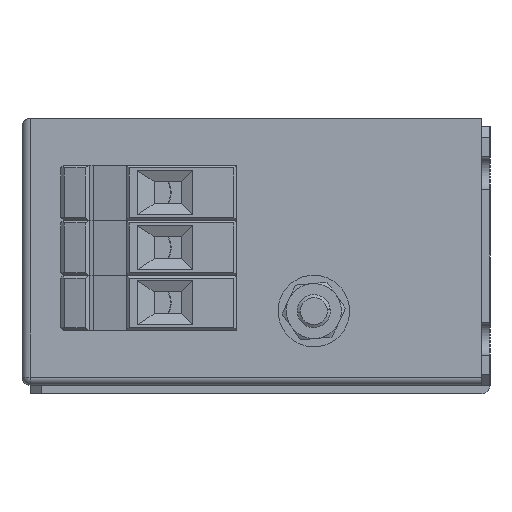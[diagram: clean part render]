
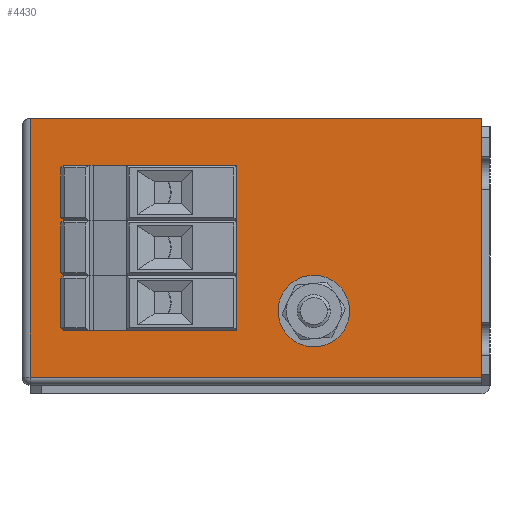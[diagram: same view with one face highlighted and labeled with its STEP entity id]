
A CAD part, left-side view. The second image highlights one B-rep face of the part: STEP entity #4430.
In plain terms, the highlighted planar face has unit normal (-1, 0, 0).
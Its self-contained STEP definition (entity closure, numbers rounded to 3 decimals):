
#515 = DIRECTION ( 'NONE',  ( 0., -1., 0. ) ) ;
#516 = VECTOR ( 'NONE', #515, 1000. ) ;
#517 = CARTESIAN_POINT ( 'NONE',  ( 15., 85., -45.5 ) ) ;
#518 = LINE ( 'NONE', #517, #516 ) ;
#525 = CARTESIAN_POINT ( 'NONE',  ( 15., 1.5, -45.5 ) ) ;
#647 = PLANE ( 'NONE',  #653 ) ;
#648 = FACE_BOUND ( 'NONE', #4431, .T. ) ;
#653 = AXIS2_PLACEMENT_3D ( 'NONE', #660, #659, #658 ) ;
#654 = FACE_OUTER_BOUND ( 'NONE', #7533, .T. ) ;
#655 = FACE_BOUND ( 'NONE', #7458, .T. ) ;
#656 = FACE_BOUND ( 'NONE', #4079, .T. ) ;
#657 = FACE_BOUND ( 'NONE', #4075, .T. ) ;
#658 = DIRECTION ( 'NONE',  ( 0., 0., -1. ) ) ;
#659 = DIRECTION ( 'NONE',  ( 1., 0., 0. ) ) ;
#660 = CARTESIAN_POINT ( 'NONE',  ( 15., 85., 1.5 ) ) ;
#661 = AXIS2_PLACEMENT_3D ( 'NONE', #665, #664, #663 ) ;
#662 = CIRCLE ( 'NONE', #661, 3. ) ;
#663 = DIRECTION ( 'NONE',  ( 0., 0., -1. ) ) ;
#664 = DIRECTION ( 'NONE',  ( 1., 0., 0. ) ) ;
#665 = CARTESIAN_POINT ( 'NONE',  ( 15., 32., -33.5 ) ) ;
#847 = DIRECTION ( 'NONE',  ( 1., 0., 0. ) ) ;
#848 = CARTESIAN_POINT ( 'NONE',  ( 15., 32., -33.5 ) ) ;
#849 = AXIS2_PLACEMENT_3D ( 'NONE', #848, #847, #853 ) ;
#851 = CARTESIAN_POINT ( 'NONE',  ( 15., 32., -36.5 ) ) ;
#852 = CARTESIAN_POINT ( 'NONE',  ( 15., 32., -30.5 ) ) ;
#853 = DIRECTION ( 'NONE',  ( 0., 0., -1. ) ) ;
#860 = CIRCLE ( 'NONE', #849, 3. ) ;
#2168 = CARTESIAN_POINT ( 'NONE',  ( 15., 62., -16.1 ) ) ;
#2170 = CIRCLE ( 'NONE', #2177, 4.1 ) ;
#2174 = DIRECTION ( 'NONE',  ( 0., 0., -1. ) ) ;
#2175 = DIRECTION ( 'NONE',  ( 1., 0., 0. ) ) ;
#2176 = CARTESIAN_POINT ( 'NONE',  ( 15., 62., -12. ) ) ;
#2177 = AXIS2_PLACEMENT_3D ( 'NONE', #2176, #2175, #2174 ) ;
#2581 = CARTESIAN_POINT ( 'NONE',  ( 15., 83.5, 1.5 ) ) ;
#2582 = DIRECTION ( 'NONE',  ( 0., -1., 0. ) ) ;
#2583 = VECTOR ( 'NONE', #2582, 1000. ) ;
#2584 = CARTESIAN_POINT ( 'NONE',  ( 15., 85., 1.5 ) ) ;
#2585 = LINE ( 'NONE', #2584, #2583 ) ;
#2663 = DIRECTION ( 'NONE',  ( 0., 0., -1. ) ) ;
#2664 = VECTOR ( 'NONE', #2663, 1000. ) ;
#2665 = CARTESIAN_POINT ( 'NONE',  ( 15., 83.5, 1.5 ) ) ;
#2666 = LINE ( 'NONE', #2665, #2664 ) ;
#2677 = DIRECTION ( 'NONE',  ( 0., 0., 1. ) ) ;
#2678 = VECTOR ( 'NONE', #2677, 1000. ) ;
#2679 = CARTESIAN_POINT ( 'NONE',  ( 15., 1.5, 1.5 ) ) ;
#2680 = LINE ( 'NONE', #2679, #2678 ) ;
#2727 = DIRECTION ( 'NONE',  ( 0., 0., -1. ) ) ;
#2728 = DIRECTION ( 'NONE',  ( 1., 0., 0. ) ) ;
#2729 = CARTESIAN_POINT ( 'NONE',  ( 15., 62., -32. ) ) ;
#2730 = AXIS2_PLACEMENT_3D ( 'NONE', #2729, #2728, #2727 ) ;
#2731 = CIRCLE ( 'NONE', #2730, 4.1 ) ;
#2736 = DIRECTION ( 'NONE',  ( 0., 0., -1. ) ) ;
#2737 = DIRECTION ( 'NONE',  ( 1., 0., 0. ) ) ;
#2738 = CARTESIAN_POINT ( 'NONE',  ( 15., 62., -22. ) ) ;
#2739 = AXIS2_PLACEMENT_3D ( 'NONE', #2738, #2737, #2736 ) ;
#2744 = CIRCLE ( 'NONE', #2739, 4.1 ) ;
#3109 = CARTESIAN_POINT ( 'NONE',  ( 15., 62., -22. ) ) ;
#3110 = AXIS2_PLACEMENT_3D ( 'NONE', #3109, #3114, #3113 ) ;
#3111 = CIRCLE ( 'NONE', #3110, 4.1 ) ;
#3112 = CARTESIAN_POINT ( 'NONE',  ( 15., 62., -26.1 ) ) ;
#3113 = DIRECTION ( 'NONE',  ( 0., 0., -1. ) ) ;
#3114 = DIRECTION ( 'NONE',  ( 1., 0., 0. ) ) ;
#3115 = CARTESIAN_POINT ( 'NONE',  ( 15., 62., -17.9 ) ) ;
#3152 = CARTESIAN_POINT ( 'NONE',  ( 15., 1.5, 1.5 ) ) ;
#3153 = DIRECTION ( 'NONE',  ( 0., 0., 1. ) ) ;
#3154 = VECTOR ( 'NONE', #3153, 1000. ) ;
#3155 = CARTESIAN_POINT ( 'NONE',  ( 15., 1.5, 1.5 ) ) ;
#3190 = LINE ( 'NONE', #3155, #3154 ) ;
#3192 = CARTESIAN_POINT ( 'NONE',  ( 15., 1.5, 0. ) ) ;
#3625 = ORIENTED_EDGE ( 'NONE', *, *, #7542, .T. ) ;
#4071 = VERTEX_POINT ( 'NONE', #2168 ) ;
#4075 = EDGE_LOOP ( 'NONE', ( #4076, #4078 ) ) ;
#4076 = ORIENTED_EDGE ( 'NONE', *, *, #4077, .T. ) ;
#4077 = EDGE_CURVE ( 'NONE', #4071, #4579, #2170, .T. ) ;
#4078 = ORIENTED_EDGE ( 'NONE', *, *, #4578, .T. ) ;
#4079 = EDGE_LOOP ( 'NONE', ( #3625, #7528 ) ) ;
#4083 = EDGE_CURVE ( 'NONE', #4084, #4085, #3111, .T. ) ;
#4084 = VERTEX_POINT ( 'NONE', #3115 ) ;
#4085 = VERTEX_POINT ( 'NONE', #3112 ) ;
#4100 = EDGE_CURVE ( 'NONE', #4101, #4102, #3190, .T. ) ;
#4101 = VERTEX_POINT ( 'NONE', #3192 ) ;
#4102 = VERTEX_POINT ( 'NONE', #3152 ) ;
#4219 = EDGE_CURVE ( 'NONE', #4220, #4221, #860, .T. ) ;
#4220 = VERTEX_POINT ( 'NONE', #852 ) ;
#4221 = VERTEX_POINT ( 'NONE', #851 ) ;
#4332 = VERTEX_POINT ( 'NONE', #525 ) ;
#4334 = EDGE_CURVE ( 'NONE', #4600, #4332, #518, .T. ) ;
#4430 = ADVANCED_FACE ( 'NONE', ( #648, #657, #656, #655, #654 ), #647, .F. ) ;
#4431 = EDGE_LOOP ( 'NONE', ( #4432, #4434 ) ) ;
#4432 = ORIENTED_EDGE ( 'NONE', *, *, #4433, .T. ) ;
#4433 = EDGE_CURVE ( 'NONE', #4221, #4220, #662, .T. ) ;
#4434 = ORIENTED_EDGE ( 'NONE', *, *, #4219, .T. ) ;
#4569 = EDGE_CURVE ( 'NONE', #4570, #4571, #6587, .T. ) ;
#4570 = VERTEX_POINT ( 'NONE', #6591 ) ;
#4571 = VERTEX_POINT ( 'NONE', #6589 ) ;
#4578 = EDGE_CURVE ( 'NONE', #4579, #4071, #6673, .T. ) ;
#4579 = VERTEX_POINT ( 'NONE', #6765 ) ;
#4600 = VERTEX_POINT ( 'NONE', #6881 ) ;
#6585 = AXIS2_PLACEMENT_3D ( 'NONE', #6617, #6615, #6613 ) ;
#6587 = CIRCLE ( 'NONE', #6585, 4.1 ) ;
#6589 = CARTESIAN_POINT ( 'NONE',  ( 15., 62., -36.1 ) ) ;
#6591 = CARTESIAN_POINT ( 'NONE',  ( 15., 62., -27.9 ) ) ;
#6613 = DIRECTION ( 'NONE',  ( 0., 0., -1. ) ) ;
#6615 = DIRECTION ( 'NONE',  ( 1., 0., 0. ) ) ;
#6617 = CARTESIAN_POINT ( 'NONE',  ( 15., 62., -32. ) ) ;
#6673 = CIRCLE ( 'NONE', #6738, 4.1 ) ;
#6736 = CARTESIAN_POINT ( 'NONE',  ( 15., 62., -12. ) ) ;
#6738 = AXIS2_PLACEMENT_3D ( 'NONE', #6736, #6769, #6767 ) ;
#6765 = CARTESIAN_POINT ( 'NONE',  ( 15., 62., -7.9 ) ) ;
#6767 = DIRECTION ( 'NONE',  ( 0., 0., -1. ) ) ;
#6769 = DIRECTION ( 'NONE',  ( 1., 0., 0. ) ) ;
#6881 = CARTESIAN_POINT ( 'NONE',  ( 15., 83.5, -45.5 ) ) ;
#7449 = ORIENTED_EDGE ( 'NONE', *, *, #4083, .T. ) ;
#7450 = ORIENTED_EDGE ( 'NONE', *, *, #7451, .F. ) ;
#7451 = EDGE_CURVE ( 'NONE', #7453, #4102, #2585, .T. ) ;
#7453 = VERTEX_POINT ( 'NONE', #2581 ) ;
#7454 = ORIENTED_EDGE ( 'NONE', *, *, #4100, .T. ) ;
#7458 = EDGE_LOOP ( 'NONE', ( #7543, #7449 ) ) ;
#7497 = ORIENTED_EDGE ( 'NONE', *, *, #7498, .T. ) ;
#7498 = EDGE_CURVE ( 'NONE', #4332, #4101, #2680, .T. ) ;
#7503 = ORIENTED_EDGE ( 'NONE', *, *, #7504, .T. ) ;
#7504 = EDGE_CURVE ( 'NONE', #7453, #4600, #2666, .T. ) ;
#7528 = ORIENTED_EDGE ( 'NONE', *, *, #4569, .T. ) ;
#7532 = ORIENTED_EDGE ( 'NONE', *, *, #4334, .T. ) ;
#7533 = EDGE_LOOP ( 'NONE', ( #7450, #7503, #7532, #7497, #7454 ) ) ;
#7538 = EDGE_CURVE ( 'NONE', #4085, #4084, #2744, .T. ) ;
#7542 = EDGE_CURVE ( 'NONE', #4571, #4570, #2731, .T. ) ;
#7543 = ORIENTED_EDGE ( 'NONE', *, *, #7538, .T. ) ;
